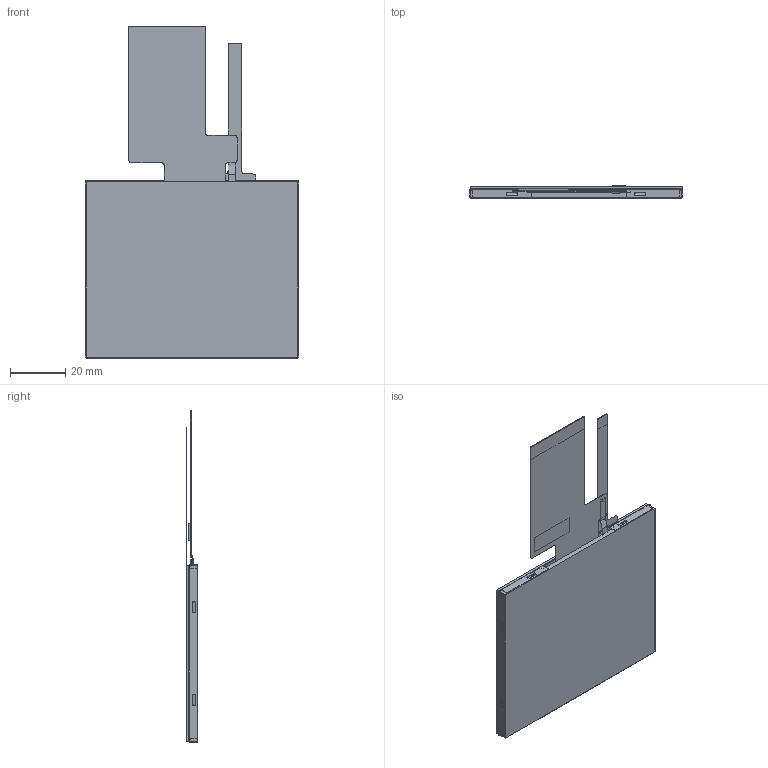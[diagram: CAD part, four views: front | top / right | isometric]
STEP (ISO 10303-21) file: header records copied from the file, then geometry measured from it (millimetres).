
FILE_DESCRIPTION (( 'STEP AP203' ), '1' );
FILE_NAME ('NHD-3.5-320240JF-ASXP-T_Rev1A.STEP', '2022-06-28T18:36:08', ( '' ), ( '' ), 'SwSTEP 2.0', 'SolidWorks 2019', '' );
FILE_SCHEMA (( 'CONFIG_CONTROL_DESIGN' ));
Length unit declared in the file: millimetre
Products named in the file (1): NHD-3.5-320240JF-ASXP-T_Rev1A
Bounding box: 76.9 x 4.3 x 119.8 mm (x, y, z)
Volume: 19758.5 mm3; surface area: 37375.3 mm2
Topology: 6 solids, 6 shells, 256 faces, 683 edges, 454 vertices
Faces by surface type: plane 213, cylinder 43
Entity records: 7992 total; most frequent: CARTESIAN_POINT 1394, ORIENTED_EDGE 1366, DIRECTION 1283, EDGE_CURVE 683, VECTOR 597, LINE 597, VERTEX_POINT 454, AXIS2_PLACEMENT_3D 343
